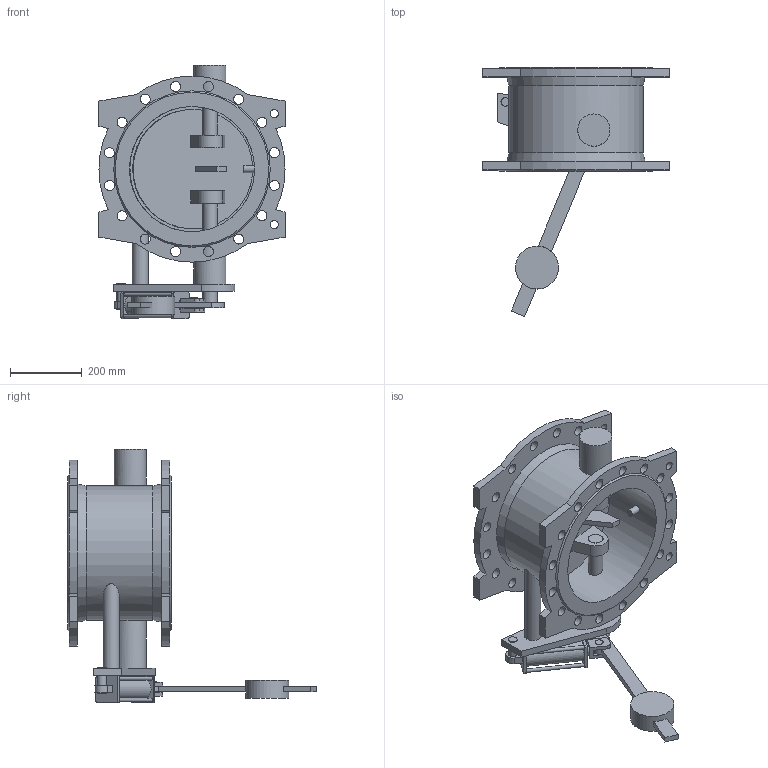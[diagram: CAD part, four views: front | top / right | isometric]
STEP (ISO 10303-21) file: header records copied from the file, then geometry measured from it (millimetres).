
FILE_DESCRIPTION(('STEP AP203'), '1');
FILE_NAME('Êëàïàí 015F.PV DN350 PN16 ñ ïðîòèâîâåñîì ñ äåìïôåðîì', '', ('UNSPECIFIED'), ('UNSPECIFIED'), 'ASCON STEP Converter 1.6', 'ASCON Math Kernel', '');
FILE_SCHEMA(('CONFIG_CONTROL_DESIGN'));
Length unit declared in the file: millimetre
Bounding box: 520 x 695 x 708 mm (x, y, z)
Volume: 15702545.6 mm3; surface area: 1880426.7 mm2
Topology: 1 solids, 1 shells, 199 faces, 497 edges, 329 vertices
Faces by surface type: plane 100, cylinder 90, cone 4, extrusion 2, torus 2, bspline 1
Full cylindrical faces by diameter (mm): 10 x4, 12 x1, 14 x2, 20 x1, 22 x4, 23 x4, 24 x3, 28 x32, 30 x1, 40 x3, 42 x2, 45 x1, 60 x1, 90 x2, 120 x1, 350 x1, 376 x1
Entity records: 9517 total; most frequent: CARTESIAN_POINT 3103, DIRECTION 974, ORIENTED_EDGE 840, EDGE_CURVE 420, EDGE_LOOP 398, AXIS2_PLACEMENT_3D 379, VERTEX_POINT 328, FACE_BOUND 257
